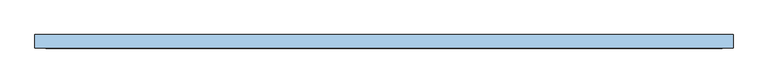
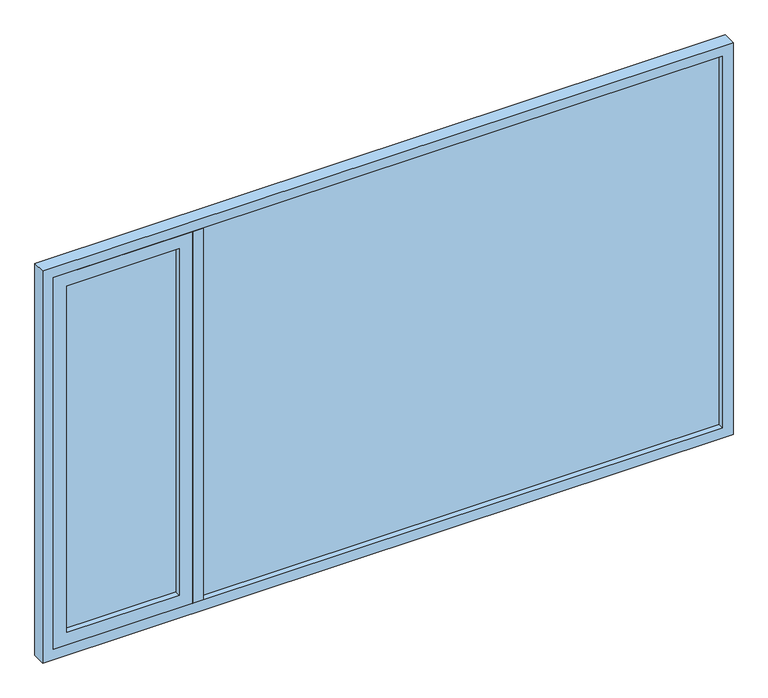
"""IFC4 building model written with IfcOpenShell, lengths in millimetres: window geometry, VENT_ALUM_PROY_LATERAL : VD-22 / PROYECC LATERALREC PH 2.58 X 1.55."""

from ifc_helpers import new_model, si_unit, frame, origin, place, context, project, spatial, polyline, outline, extrude, source, transform, mapped, element, save


def window_03314aeb(model_context):
    return source(origin(), model_context, "Body", "SweptSolid", [
        extrude(outline(polyline([(2072.5, 3.0), (2072.5, -3.0), (132.5, -3.0), (132.5, 3.0), (2072.5, 3.0)])), frame((0.0, 0.0, 2040.0), z_axis=(0.0, 0.0, 1.0), x_axis=(1.0, 0.0, 0.0)), (0.0, 0.0, 1.0), 1470.0),
        extrude(outline(polyline([(3550.0, -467.5), (2000.0, -467.5), (2000.0, 2112.5), (3550.0, 2112.5), (3550.0, -467.5)]), holes=[polyline([(2040.0, -427.5), (3510.0, -427.5), (3510.0, 2072.5), (2040.0, 2072.5), (2040.0, -427.5)])]), frame((0.0, -25.0, 0.0), z_axis=(0.0, 1.0, 0.0), x_axis=(0.0, 0.0, 1.0)), (0.0, 0.0, 1.0), 50.0),
        extrude(outline(polyline([(92.5, -25.0), (92.5, 25.0), (132.5, 25.0), (132.5, -25.0), (92.5, -25.0)])), frame((0.0, 0.0, 2040.0), z_axis=(0.0, 0.0, 1.0), x_axis=(1.0, 0.0, 0.0)), (0.0, 0.0, 1.0), 1470.0),
        extrude(outline(polyline([(42.5, 3.0), (42.5, -3.0), (-377.5, -3.0), (-377.5, 3.0), (42.5, 3.0)])), frame((0.0, 0.0, 2080.0), z_axis=(0.0, 0.0, 1.0), x_axis=(1.0, 0.0, 0.0)), (0.0, 0.0, 1.0), 1380.0),
        extrude(outline(polyline([(3510.0, -427.5), (2040.0, -427.5), (2040.0, 92.5), (3510.0, 92.5), (3510.0, -427.5)]), holes=[polyline([(2090.0, -377.5), (3460.0, -377.5), (3460.0, 42.5), (2090.0, 42.5), (2090.0, -377.5)])]), frame((0.0, -25.0, 0.0), z_axis=(0.0, 1.0, 0.0), x_axis=(0.0, 0.0, 1.0)), (0.0, 0.0, 1.0), 50.0),
    ])


if __name__ == "__main__":
    model = new_model("IFC4")
    model_context = context("Model", 3, world=origin())
    ifc_project = project(units=[si_unit("LENGTHUNIT", "METRE", prefix="MILLI")], contexts=[model_context])
    site = spatial("IfcSite", under=ifc_project)
    building = spatial("IfcBuilding", under=site)
    placement = place(None, origin())
    window_shape = window_03314aeb(model_context)
    element("IfcWindow", 1, ObjectType="VENT_ALUM_PROY_LATERAL : VD-22 / PROYECC LATERALREC PH 2.58 X 1.55", at=placement, inside=building, context=model_context, shape_type="MappedRepresentation", body=[
        mapped(window_shape, transform((0.0, 0.0, 0.0), x_axis=(1.0, 0.0, 0.0), y_axis=(0.0, 1.0, 0.0), z_axis=(0.0, 0.0, 1.0))),
    ])
    save(model, "model.ifc")
